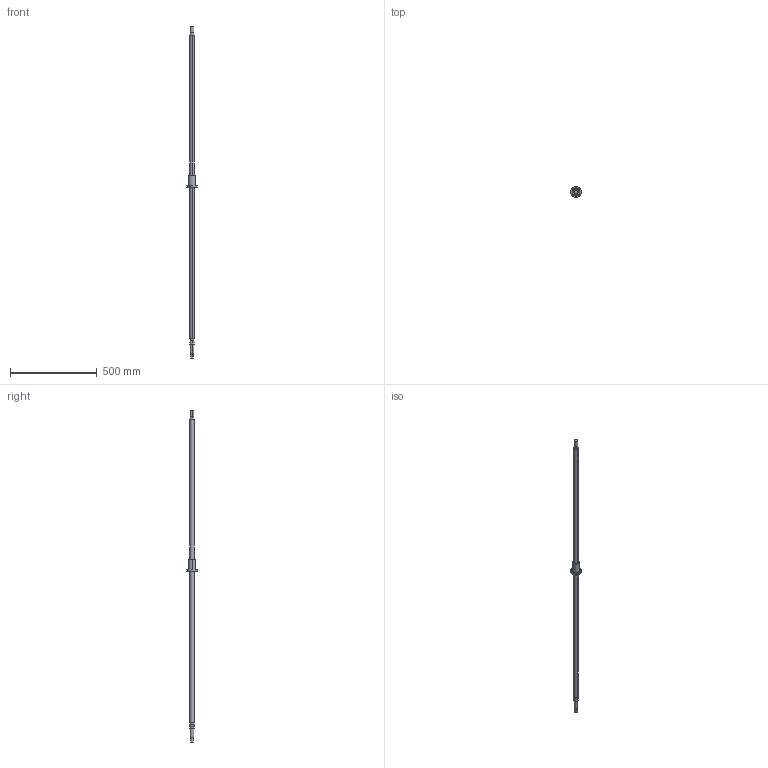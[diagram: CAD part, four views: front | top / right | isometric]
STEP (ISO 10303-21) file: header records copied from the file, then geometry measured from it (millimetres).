
FILE_DESCRIPTION((''),'2;1');
FILE_NAME('25-25K2','2008-04-11T',('cmliu'),(''),'PRO/ENGINEER BY PARAMETRIC TECHNOLOGY CORPORATION, 2004110','PRO/ENGINEER BY PARAMETRIC TECHNOLOGY CORPORATION, 2004110','');
FILE_SCHEMA(('CONFIG_CONTROL_DESIGN'));
Length unit declared in the file: millimetre
Products named in the file (1): 25-25K2
Bounding box: 62 x 62 x 1913 mm (x, y, z)
Volume: 978153 mm3; surface area: 159040.2 mm2
Topology: 1 solids, 1 shells, 56 faces, 126 edges, 84 vertices
Faces by surface type: cylinder 39, plane 17
Entity records: 1715 total; most frequent: CARTESIAN_POINT 321, DIRECTION 310, ORIENTED_EDGE 252, AXIS2_PLACEMENT_3D 132, EDGE_CURVE 126, VERTEX_POINT 84, EDGE_LOOP 80, CIRCLE 76
